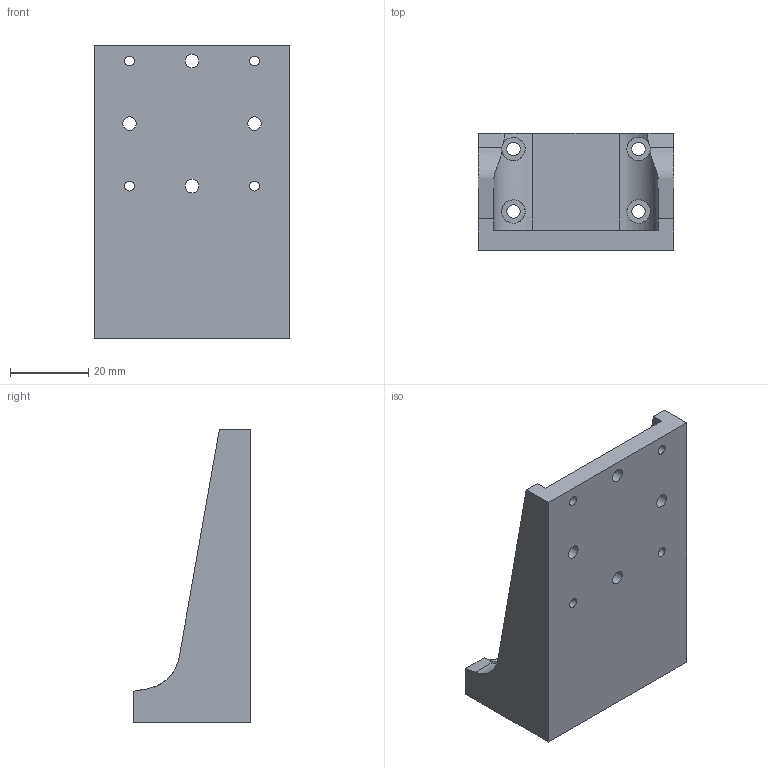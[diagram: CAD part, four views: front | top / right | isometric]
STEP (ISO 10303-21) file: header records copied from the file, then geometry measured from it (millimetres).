
FILE_DESCRIPTION( ( 'STEP AP203' ), '1' );
FILE_NAME( '//Srg14/OST事業部/技術G/Topsolid/PARTS/M-PARTS/A47-4/3D_A47-4/3D_A47-4+090219.step', '2009-02-19T06:23:38', ( ' ' ), ( ' ' ), 'XStep 1.0', ' ', ' ' );
FILE_SCHEMA( ( 'CONFIG_CONTROL_DESIGN' ) );
Length unit declared in the file: millimetre
Products named in the file (1): 1
Bounding box: 50 x 30 x 75 mm (x, y, z)
Volume: 30794.5 mm3; surface area: 14494.8 mm2
Topology: 1 solids, 1 shells, 38 faces, 106 edges, 72 vertices
Faces by surface type: cylinder 20, plane 18
Full cylindrical faces by diameter (mm): 2.5 x4, 3.5 x8, 6 x4
Entity records: 1456 total; most frequent: CARTESIAN_POINT 461, DIRECTION 194, ORIENTED_EDGE 168, EDGE_CURVE 84, EDGE_LOOP 80, AXIS2_PLACEMENT_3D 79, VERTEX_POINT 66, FACE_OUTER_BOUND 54
